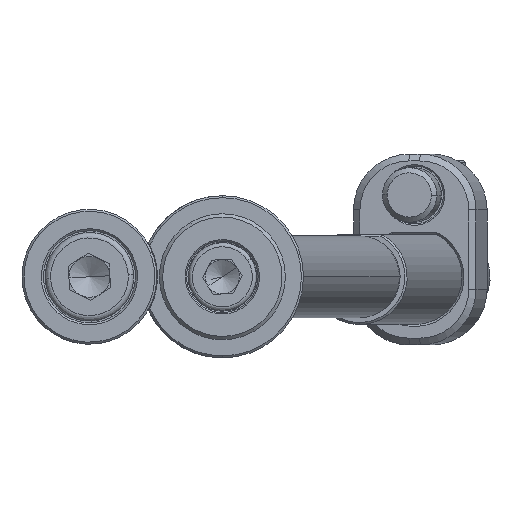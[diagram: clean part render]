
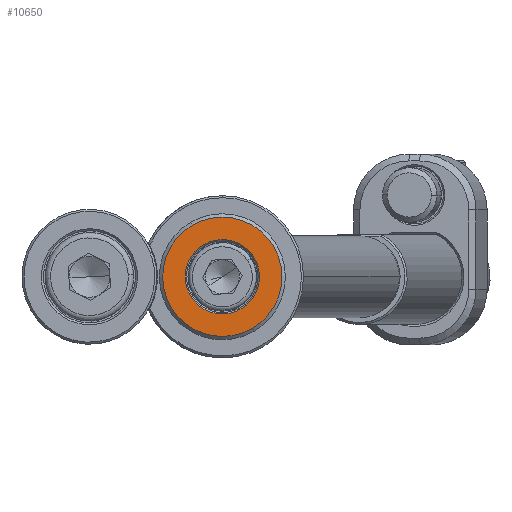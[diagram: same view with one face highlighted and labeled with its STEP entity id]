
A CAD part, front view. The second image highlights one B-rep face of the part: STEP entity #10650.
In plain terms, the highlighted planar face has unit normal (0, -1, 0).
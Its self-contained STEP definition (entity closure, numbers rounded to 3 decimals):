
#987 = EDGE_CURVE ( 'NONE', #11412, #10409, #12230, .T. ) ;
#1049 = ORIENTED_EDGE ( 'NONE', *, *, #3733, .T. ) ;
#1285 = DIRECTION ( 'NONE',  ( 0., -1., 0. ) ) ;
#2058 = EDGE_CURVE ( 'NONE', #2296, #13616, #5488, .T. ) ;
#2128 = DIRECTION ( 'NONE',  ( 0., 1., 0. ) ) ;
#2268 = DIRECTION ( 'NONE',  ( 0., -1., 0. ) ) ;
#2296 = VERTEX_POINT ( 'NONE', #8986 ) ;
#3284 = CARTESIAN_POINT ( 'NONE',  ( 2.753, -4., -4.704 ) ) ;
#3733 = EDGE_CURVE ( 'NONE', #13616, #2296, #7789, .T. ) ;
#4040 = CARTESIAN_POINT ( 'NONE',  ( 4.42, -4., -7.552 ) ) ;
#4887 = ORIENTED_EDGE ( 'NONE', *, *, #987, .T. ) ;
#5064 = CARTESIAN_POINT ( 'NONE',  ( -4.531, -4., -2.652 ) ) ;
#5488 = CIRCLE ( 'NONE', #14061, 8.75 ) ;
#6063 = FACE_BOUND ( 'NONE', #11048, .T. ) ;
#6073 = CIRCLE ( 'NONE', #11888, 5.45 ) ;
#6430 = DIRECTION ( 'NONE',  ( -0.505, 0., 0.863 ) ) ;
#6519 = EDGE_LOOP ( 'NONE', ( #9260, #1049 ) ) ;
#6790 = DIRECTION ( 'NONE',  ( -0.505, 0., 0.863 ) ) ;
#7447 = DIRECTION ( 'NONE',  ( 0., 1., 0. ) ) ;
#7757 = CARTESIAN_POINT ( 'NONE',  ( 0., -4., 0. ) ) ;
#7789 = CIRCLE ( 'NONE', #11978, 8.75 ) ;
#7878 = CARTESIAN_POINT ( 'NONE',  ( 0., -4., 0. ) ) ;
#8174 = AXIS2_PLACEMENT_3D ( 'NONE', #5064, #11684, #10725 ) ;
#8265 = PLANE ( 'NONE',  #8174 ) ;
#8954 = AXIS2_PLACEMENT_3D ( 'NONE', #11967, #7447, #6430 ) ;
#8986 = CARTESIAN_POINT ( 'NONE',  ( -4.42, -4., 7.552 ) ) ;
#9260 = ORIENTED_EDGE ( 'NONE', *, *, #2058, .T. ) ;
#10116 = DIRECTION ( 'NONE',  ( -0.505, 0., 0.863 ) ) ;
#10409 = VERTEX_POINT ( 'NONE', #11052 ) ;
#10493 = FACE_OUTER_BOUND ( 'NONE', #6519, .T. ) ;
#10512 = EDGE_CURVE ( 'NONE', #10409, #11412, #6073, .T. ) ;
#10650 = ADVANCED_FACE ( 'NONE', ( #6063, #10493 ), #8265, .F. ) ;
#10725 = DIRECTION ( 'NONE',  ( -0.505, 0., 0.863 ) ) ;
#11048 = EDGE_LOOP ( 'NONE', ( #4887, #11944 ) ) ;
#11052 = CARTESIAN_POINT ( 'NONE',  ( -2.753, -4., 4.704 ) ) ;
#11256 = DIRECTION ( 'NONE',  ( -0.505, 0., 0.863 ) ) ;
#11412 = VERTEX_POINT ( 'NONE', #3284 ) ;
#11684 = DIRECTION ( 'NONE',  ( 0., 1., 0. ) ) ;
#11888 = AXIS2_PLACEMENT_3D ( 'NONE', #13164, #2128, #6790 ) ;
#11944 = ORIENTED_EDGE ( 'NONE', *, *, #10512, .T. ) ;
#11967 = CARTESIAN_POINT ( 'NONE',  ( 0., -4., 0. ) ) ;
#11978 = AXIS2_PLACEMENT_3D ( 'NONE', #7757, #2268, #11256 ) ;
#12230 = CIRCLE ( 'NONE', #8954, 5.45 ) ;
#13164 = CARTESIAN_POINT ( 'NONE',  ( 0., -4., 0. ) ) ;
#13616 = VERTEX_POINT ( 'NONE', #4040 ) ;
#14061 = AXIS2_PLACEMENT_3D ( 'NONE', #7878, #1285, #10116 ) ;
